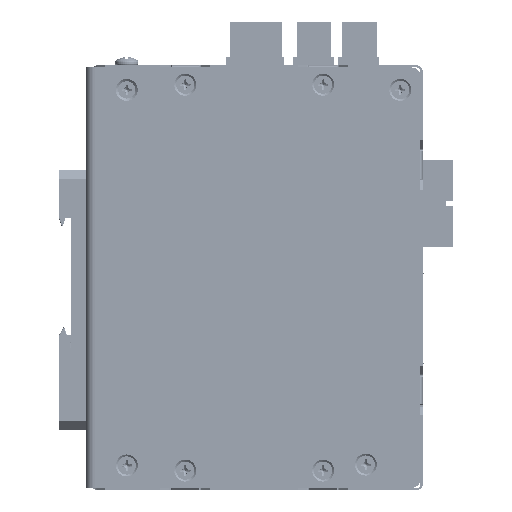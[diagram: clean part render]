
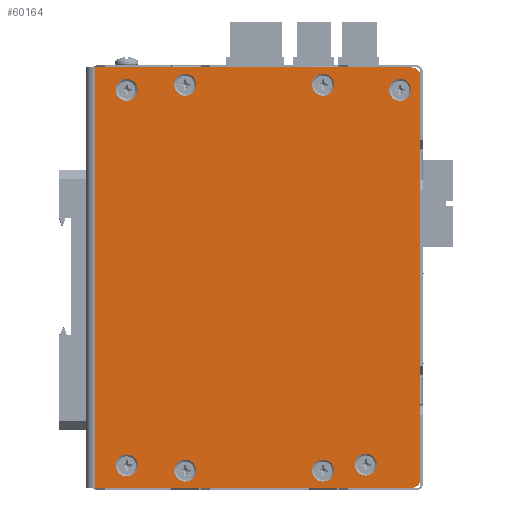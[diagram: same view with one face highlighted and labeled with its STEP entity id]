
A CAD part, left-side view. The second image highlights one B-rep face of the part: STEP entity #60164.
In plain terms, the highlighted planar face has unit normal (-1, 0, 0).
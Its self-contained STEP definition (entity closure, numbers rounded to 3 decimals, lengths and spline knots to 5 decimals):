
#3306=CIRCLE('',#67243,0.00324);
#3307=CIRCLE('',#67244,0.00324);
#3308=CIRCLE('',#67245,0.00324);
#3309=CIRCLE('',#67246,0.00324);
#3310=CIRCLE('',#67247,0.00324);
#3311=CIRCLE('',#67248,0.00324);
#3312=CIRCLE('',#67249,0.00324);
#3313=CIRCLE('',#67250,0.00324);
#3314=CIRCLE('',#67251,0.00254);
#3315=CIRCLE('',#67252,0.00254);
#9484=LINE('',#108193,#15701);
#9488=LINE('',#108202,#15705);
#9494=LINE('',#108216,#15711);
#9496=LINE('',#108238,#15713);
#15701=VECTOR('',#82611,1.);
#15705=VECTOR('',#82617,1.);
#15711=VECTOR('',#82625,1.);
#15713=VECTOR('',#82649,1.);
#31797=ORIENTED_EDGE('',*,*,#40745,.F.);
#31798=ORIENTED_EDGE('',*,*,#40746,.F.);
#31799=ORIENTED_EDGE('',*,*,#40747,.F.);
#31800=ORIENTED_EDGE('',*,*,#40748,.F.);
#31801=ORIENTED_EDGE('',*,*,#40749,.F.);
#31802=ORIENTED_EDGE('',*,*,#40750,.F.);
#31803=ORIENTED_EDGE('',*,*,#40751,.F.);
#31804=ORIENTED_EDGE('',*,*,#40752,.F.);
#31805=ORIENTED_EDGE('',*,*,#40743,.F.);
#31806=ORIENTED_EDGE('',*,*,#40753,.T.);
#31807=ORIENTED_EDGE('',*,*,#40733,.T.);
#31808=ORIENTED_EDGE('',*,*,#40754,.T.);
#31809=ORIENTED_EDGE('',*,*,#40737,.T.);
#31810=ORIENTED_EDGE('',*,*,#40755,.F.);
#40733=EDGE_CURVE('',#46576,#46577,#9484,.T.);
#40737=EDGE_CURVE('',#46580,#46581,#9488,.T.);
#40743=EDGE_CURVE('',#46586,#46587,#9494,.T.);
#40745=EDGE_CURVE('',#46588,#46588,#3306,.T.);
#40746=EDGE_CURVE('',#46589,#46589,#3307,.T.);
#40747=EDGE_CURVE('',#46590,#46590,#3308,.T.);
#40748=EDGE_CURVE('',#46591,#46591,#3309,.T.);
#40749=EDGE_CURVE('',#46592,#46592,#3310,.T.);
#40750=EDGE_CURVE('',#46593,#46593,#3311,.T.);
#40751=EDGE_CURVE('',#46594,#46594,#3312,.T.);
#40752=EDGE_CURVE('',#46595,#46595,#3313,.T.);
#40753=EDGE_CURVE('',#46586,#46576,#3314,.T.);
#40754=EDGE_CURVE('',#46577,#46580,#3315,.T.);
#40755=EDGE_CURVE('',#46587,#46581,#9496,.F.);
#46576=VERTEX_POINT('',#108194);
#46577=VERTEX_POINT('',#108195);
#46580=VERTEX_POINT('',#108203);
#46581=VERTEX_POINT('',#108204);
#46586=VERTEX_POINT('',#108215);
#46587=VERTEX_POINT('',#108217);
#46588=VERTEX_POINT('',#108221);
#46589=VERTEX_POINT('',#108223);
#46590=VERTEX_POINT('',#108225);
#46591=VERTEX_POINT('',#108227);
#46592=VERTEX_POINT('',#108229);
#46593=VERTEX_POINT('',#108231);
#46594=VERTEX_POINT('',#108233);
#46595=VERTEX_POINT('',#108235);
#50877=EDGE_LOOP('',(#31797));
#50878=EDGE_LOOP('',(#31798));
#50879=EDGE_LOOP('',(#31799));
#50880=EDGE_LOOP('',(#31800));
#50881=EDGE_LOOP('',(#31801));
#50882=EDGE_LOOP('',(#31802));
#50883=EDGE_LOOP('',(#31803));
#50884=EDGE_LOOP('',(#31804));
#50885=EDGE_LOOP('',(#31805,#31806,#31807,#31808,#31809,#31810));
#54852=FACE_BOUND('',#50877,.T.);
#54853=FACE_BOUND('',#50878,.T.);
#54854=FACE_BOUND('',#50879,.T.);
#54855=FACE_BOUND('',#50880,.T.);
#54856=FACE_BOUND('',#50881,.T.);
#54857=FACE_BOUND('',#50882,.T.);
#54858=FACE_BOUND('',#50883,.T.);
#54859=FACE_BOUND('',#50884,.T.);
#54860=FACE_BOUND('',#50885,.T.);
#57137=PLANE('',#67242);
#60164=ADVANCED_FACE('',(#54852,#54853,#54854,#54855,#54856,#54857,#54858,
#54859,#54860),#57137,.T.);
#67242=AXIS2_PLACEMENT_3D('',#108219,#82627,#82628);
#67243=AXIS2_PLACEMENT_3D('',#108220,#82629,#82630);
#67244=AXIS2_PLACEMENT_3D('',#108222,#82631,#82632);
#67245=AXIS2_PLACEMENT_3D('',#108224,#82633,#82634);
#67246=AXIS2_PLACEMENT_3D('',#108226,#82635,#82636);
#67247=AXIS2_PLACEMENT_3D('',#108228,#82637,#82638);
#67248=AXIS2_PLACEMENT_3D('',#108230,#82639,#82640);
#67249=AXIS2_PLACEMENT_3D('',#108232,#82641,#82642);
#67250=AXIS2_PLACEMENT_3D('',#108234,#82643,#82644);
#67251=AXIS2_PLACEMENT_3D('',#108236,#82645,#82646);
#67252=AXIS2_PLACEMENT_3D('',#108237,#82647,#82648);
#82611=DIRECTION('',(0.,0.,1.));
#82617=DIRECTION('',(0.,1.,0.));
#82625=DIRECTION('',(0.,1.,0.));
#82627=DIRECTION('',(-1.,0.,0.));
#82628=DIRECTION('',(0.,0.,1.));
#82629=DIRECTION('',(-1.,0.,0.));
#82630=DIRECTION('',(0.,0.,1.));
#82631=DIRECTION('',(-1.,0.,0.));
#82632=DIRECTION('',(0.,0.,1.));
#82633=DIRECTION('',(-1.,0.,0.));
#82634=DIRECTION('',(0.,0.,1.));
#82635=DIRECTION('',(-1.,0.,0.));
#82636=DIRECTION('',(0.,0.,1.));
#82637=DIRECTION('',(-1.,0.,0.));
#82638=DIRECTION('',(0.,0.,1.));
#82639=DIRECTION('',(-1.,0.,0.));
#82640=DIRECTION('',(0.,0.,1.));
#82641=DIRECTION('',(-1.,0.,0.));
#82642=DIRECTION('',(0.,0.,1.));
#82643=DIRECTION('',(-1.,0.,0.));
#82644=DIRECTION('',(0.,0.,1.));
#82645=DIRECTION('',(-1.,0.,0.));
#82646=DIRECTION('',(0.,0.,1.));
#82647=DIRECTION('',(-1.,0.,0.));
#82648=DIRECTION('',(0.,0.,1.));
#82649=DIRECTION('',(0.,0.,-1.));
#108193=CARTESIAN_POINT('',(-0.01524,-0.09703,0.));
#108194=CARTESIAN_POINT('',(-0.01524,-0.09703,-0.05944));
#108195=CARTESIAN_POINT('',(-0.01524,-0.09703,0.05944));
#108202=CARTESIAN_POINT('',(-0.01524,-0.09703,0.06198));
#108203=CARTESIAN_POINT('',(-0.01524,-0.09449,0.06198));
#108204=CARTESIAN_POINT('',(-0.01524,-0.00102,0.06198));
#108215=CARTESIAN_POINT('',(-0.01524,-0.09449,-0.06198));
#108216=CARTESIAN_POINT('',(-0.01524,-0.09703,-0.06198));
#108217=CARTESIAN_POINT('',(-0.01524,-0.00102,-0.06198));
#108219=CARTESIAN_POINT('',(-0.01524,-0.09703,0.));
#108220=CARTESIAN_POINT('',(-0.01524,-0.02769,0.0569));
#108221=CARTESIAN_POINT('',(-0.01524,-0.02769,0.06013));
#108222=CARTESIAN_POINT('',(-0.01524,-0.06833,0.0569));
#108223=CARTESIAN_POINT('',(-0.01524,-0.06833,0.06013));
#108224=CARTESIAN_POINT('',(-0.01524,-0.09106,0.05537));
#108225=CARTESIAN_POINT('',(-0.01524,-0.09106,0.05861));
#108226=CARTESIAN_POINT('',(-0.01524,-0.0809,-0.05512));
#108227=CARTESIAN_POINT('',(-0.01524,-0.0809,-0.05188));
#108228=CARTESIAN_POINT('',(-0.01524,-0.06833,-0.0569));
#108229=CARTESIAN_POINT('',(-0.01524,-0.06833,-0.05366));
#108230=CARTESIAN_POINT('',(-0.01524,-0.02769,-0.0569));
#108231=CARTESIAN_POINT('',(-0.01524,-0.02769,-0.05366));
#108232=CARTESIAN_POINT('',(-0.01524,-0.01041,-0.05537));
#108233=CARTESIAN_POINT('',(-0.01524,-0.01041,-0.05213));
#108234=CARTESIAN_POINT('',(-0.01524,-0.01041,0.05537));
#108235=CARTESIAN_POINT('',(-0.01524,-0.01041,0.05861));
#108236=CARTESIAN_POINT('',(-0.01524,-0.09449,-0.05944));
#108237=CARTESIAN_POINT('',(-0.01524,-0.09449,0.05944));
#108238=CARTESIAN_POINT('',(-0.01524,-0.00102,0.));
